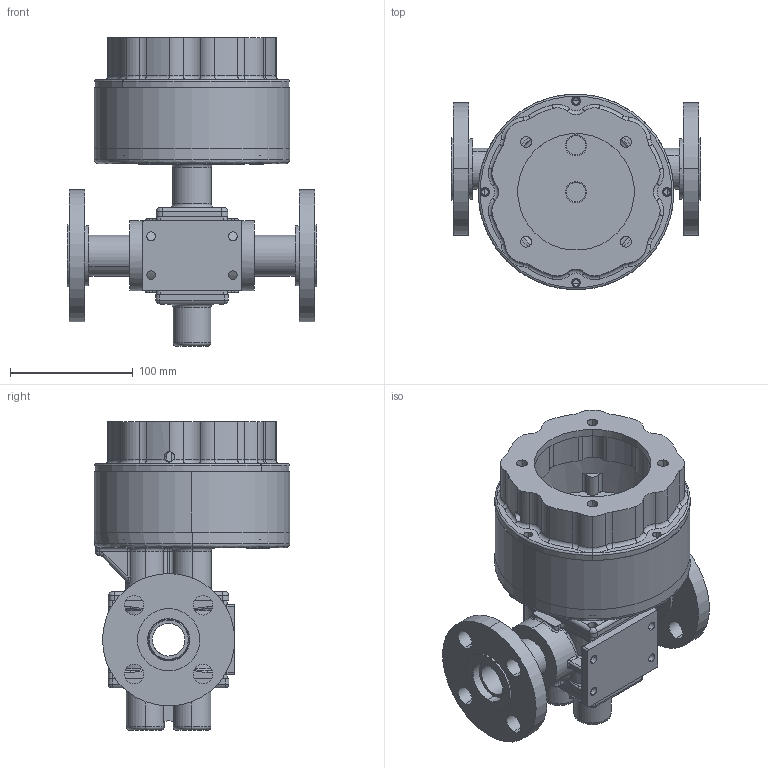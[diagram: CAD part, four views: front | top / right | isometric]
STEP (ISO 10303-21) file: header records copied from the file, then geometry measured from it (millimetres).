
FILE_DESCRIPTION (( 'STEP AP214' ), '1' );
FILE_NAME ('GMC8 FLNG IEC90 NO MOTOR.STEP', '2025-10-02T11:53:57', ( '' ), ( '' ), 'SwSTEP 2.0', 'SolidWorks 2024', '' );
FILE_SCHEMA (( 'AUTOMOTIVE_DESIGN' ));
Length unit declared in the file: inch
Products named in the file (1): GMC8 FLNG IEC90 NO MOTOR
Bounding box: 203.2 x 159.51 x 251.79 mm (x, y, z)
Volume: 1195309.4 mm3; surface area: 362805.1 mm2
Topology: 16 solids, 16 shells, 2105 faces, 5528 edges, 3545 vertices
Faces by surface type: plane 882, cylinder 537, bspline 396, torus 176, cone 85, sphere 29
Entity records: 84825 total; most frequent: CARTESIAN_POINT 34518, ORIENTED_EDGE 11024, DIRECTION 9434, EDGE_CURVE 5512, VERTEX_POINT 3545, AXIS2_PLACEMENT_3D 3219, VECTOR 2996, LINE 2996
